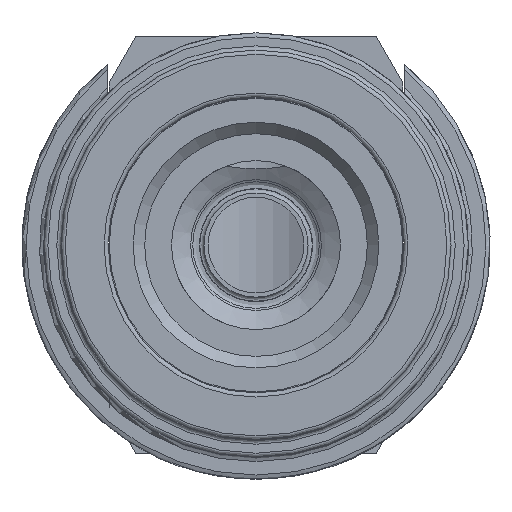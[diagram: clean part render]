
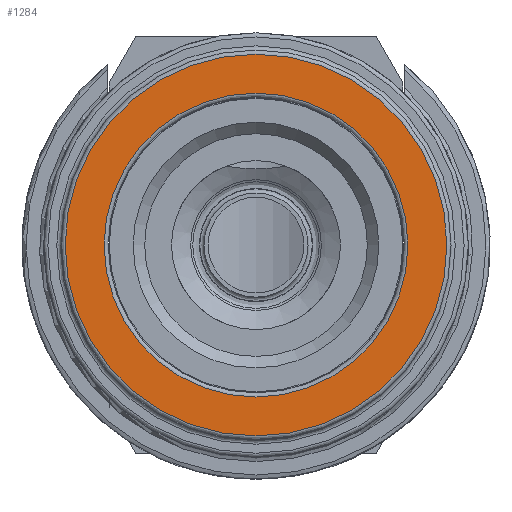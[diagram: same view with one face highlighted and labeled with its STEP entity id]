
A CAD part, front view. The second image highlights one B-rep face of the part: STEP entity #1284.
In plain terms, the highlighted planar face has unit normal (0, -1, 0).
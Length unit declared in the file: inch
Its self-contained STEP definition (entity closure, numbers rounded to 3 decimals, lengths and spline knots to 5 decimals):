
#43=FACE_BOUND('',#224,.T.);
#145=FACE_OUTER_BOUND('',#223,.T.);
#223=EDGE_LOOP('',(#937));
#224=EDGE_LOOP('',(#938));
#480=CIRCLE('',#1421,0.365);
#481=CIRCLE('',#1423,0.4585);
#572=VERTEX_POINT('',#2100);
#573=VERTEX_POINT('',#2104);
#710=EDGE_CURVE('',#572,#572,#480,.T.);
#711=EDGE_CURVE('',#573,#573,#481,.T.);
#937=ORIENTED_EDGE('',*,*,#711,.F.);
#938=ORIENTED_EDGE('',*,*,#710,.F.);
#1241=PLANE('',#1422);
#1284=ADVANCED_FACE('',(#145,#43),#1241,.T.);
#1421=AXIS2_PLACEMENT_3D('',#2102,#1642,#1643);
#1422=AXIS2_PLACEMENT_3D('',#2103,#1644,#1645);
#1423=AXIS2_PLACEMENT_3D('',#2105,#1646,#1647);
#1642=DIRECTION('center_axis',(0.,-1.,0.));
#1643=DIRECTION('ref_axis',(0.,0.,1.));
#1644=DIRECTION('center_axis',(0.,-1.,0.));
#1645=DIRECTION('ref_axis',(0.,0.,-1.));
#1646=DIRECTION('center_axis',(0.,1.,0.));
#1647=DIRECTION('ref_axis',(0.,0.,1.));
#2100=CARTESIAN_POINT('',(0.,0.,0.365));
#2102=CARTESIAN_POINT('Origin',(0.,0.,0.));
#2103=CARTESIAN_POINT('Origin',(0.,0.,-0.355));
#2104=CARTESIAN_POINT('',(0.,0.,0.4585));
#2105=CARTESIAN_POINT('Origin',(0.,0.,0.));
